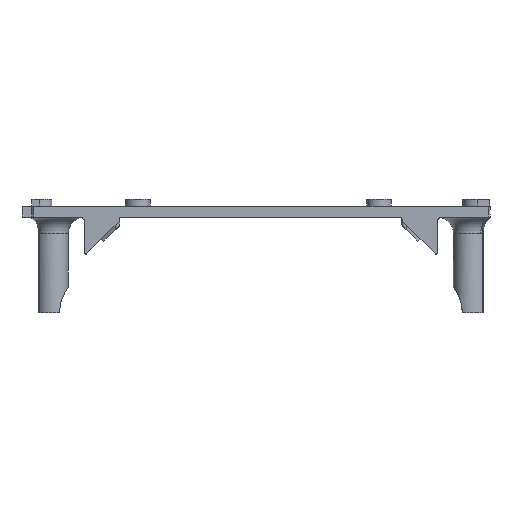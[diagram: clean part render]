
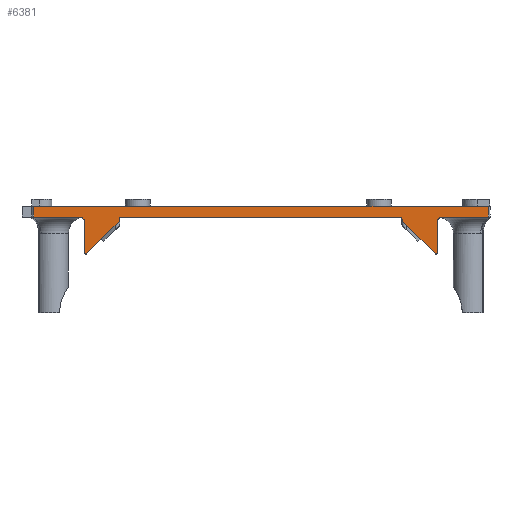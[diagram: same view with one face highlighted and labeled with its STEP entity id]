
A CAD part, front view. The second image highlights one B-rep face of the part: STEP entity #6381.
In plain terms, the highlighted planar face has unit normal (0, -1, 0).
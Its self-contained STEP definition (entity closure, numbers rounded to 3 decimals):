
#37 = VERTEX_POINT ( 'NONE', #10490 ) ;
#57 = VECTOR ( 'NONE', #4676, 1000. ) ;
#60 = LINE ( 'NONE', #3595, #5301 ) ;
#132 = DIRECTION ( 'NONE',  ( -1., 0., 0. ) ) ;
#204 = ORIENTED_EDGE ( 'NONE', *, *, #2485, .T. ) ;
#273 = CARTESIAN_POINT ( 'NONE',  ( -26.33, -27.95, -0.438 ) ) ;
#285 = CARTESIAN_POINT ( 'NONE',  ( 32.05, -27.95, -6.582 ) ) ;
#327 = CARTESIAN_POINT ( 'NONE',  ( -32.05, -27.95, -6.582 ) ) ;
#382 = LINE ( 'NONE', #2994, #57 ) ;
#514 = VERTEX_POINT ( 'NONE', #10146 ) ;
#576 = ORIENTED_EDGE ( 'NONE', *, *, #10180, .T. ) ;
#624 = CIRCLE ( 'NONE', #3587, 1. ) ;
#765 = CARTESIAN_POINT ( 'NONE',  ( 33.25, -27.95, -1. ) ) ;
#775 = CARTESIAN_POINT ( 'NONE',  ( 32.25, -27.95, 0. ) ) ;
#792 = ORIENTED_EDGE ( 'NONE', *, *, #7973, .T. ) ;
#828 = DIRECTION ( 'NONE',  ( 0., 1., 0. ) ) ;
#980 = VECTOR ( 'NONE', #6081, 1000. ) ;
#1133 = ORIENTED_EDGE ( 'NONE', *, *, #5857, .T. ) ;
#1156 = CARTESIAN_POINT ( 'NONE',  ( 25.83, -27.95, -0.438 ) ) ;
#1384 = AXIS2_PLACEMENT_3D ( 'NONE', #3553, #9853, #132 ) ;
#1476 = EDGE_CURVE ( 'NONE', #9629, #11275, #7832, .T. ) ;
#1505 = ORIENTED_EDGE ( 'NONE', *, *, #9951, .F. ) ;
#1523 = ORIENTED_EDGE ( 'NONE', *, *, #4063, .F. ) ;
#1528 = VERTEX_POINT ( 'NONE', #1156 ) ;
#1530 = CARTESIAN_POINT ( 'NONE',  ( 31.909, -27.95, -6.724 ) ) ;
#1554 = VERTEX_POINT ( 'NONE', #8706 ) ;
#1648 = VERTEX_POINT ( 'NONE', #6611 ) ;
#1692 = DIRECTION ( 'NONE',  ( -1., 0., 0. ) ) ;
#1745 = ORIENTED_EDGE ( 'NONE', *, *, #2489, .T. ) ;
#1796 = EDGE_LOOP ( 'NONE', ( #204, #8983, #7175, #10594, #6148, #8203, #3346, #576, #792, #1523, #1745, #1505, #3077, #10936, #1133, #10677, #7795, #9384 ) ) ;
#1800 = LINE ( 'NONE', #2828, #11200 ) ;
#1955 = CARTESIAN_POINT ( 'NONE',  ( 25.83, -27.95, 0. ) ) ;
#2061 = VERTEX_POINT ( 'NONE', #2357 ) ;
#2122 = VECTOR ( 'NONE', #4427, 1000. ) ;
#2357 = CARTESIAN_POINT ( 'NONE',  ( -41.6, -27.95, 0. ) ) ;
#2481 = CARTESIAN_POINT ( 'NONE',  ( -25.83, -27.95, 2. ) ) ;
#2485 = EDGE_CURVE ( 'NONE', #4170, #2061, #9743, .T. ) ;
#2489 = EDGE_CURVE ( 'NONE', #1528, #4652, #3425, .T. ) ;
#2603 = CARTESIAN_POINT ( 'NONE',  ( 33.25, -27.95, 0. ) ) ;
#2625 = LINE ( 'NONE', #775, #11300 ) ;
#2675 = AXIS2_PLACEMENT_3D ( 'NONE', #273, #9946, #8963 ) ;
#2677 = VECTOR ( 'NONE', #9673, 1000. ) ;
#2698 = VERTEX_POINT ( 'NONE', #3087 ) ;
#2700 = DIRECTION ( 'NONE',  ( 0., 0., 1. ) ) ;
#2828 = CARTESIAN_POINT ( 'NONE',  ( -33.468, -27.95, -8.282 ) ) ;
#2925 = DIRECTION ( 'NONE',  ( 0., 1., 0. ) ) ;
#2994 = CARTESIAN_POINT ( 'NONE',  ( 33.25, -27.95, 0. ) ) ;
#3001 = AXIS2_PLACEMENT_3D ( 'NONE', #285, #10866, #3822 ) ;
#3006 = FACE_OUTER_BOUND ( 'NONE', #1796, .T. ) ;
#3077 = ORIENTED_EDGE ( 'NONE', *, *, #1476, .T. ) ;
#3087 = CARTESIAN_POINT ( 'NONE',  ( 32.25, -27.95, -1. ) ) ;
#3266 = CIRCLE ( 'NONE', #4563, 0.2 ) ;
#3270 = CARTESIAN_POINT ( 'NONE',  ( 41.6, -27.95, 0. ) ) ;
#3280 = EDGE_CURVE ( 'NONE', #514, #9376, #10086, .T. ) ;
#3346 = ORIENTED_EDGE ( 'NONE', *, *, #6891, .T. ) ;
#3416 = LINE ( 'NONE', #2481, #980 ) ;
#3425 = CIRCLE ( 'NONE', #1384, 0.5 ) ;
#3553 = CARTESIAN_POINT ( 'NONE',  ( 26.33, -27.95, -0.438 ) ) ;
#3587 = AXIS2_PLACEMENT_3D ( 'NONE', #765, #828, #10485 ) ;
#3595 = CARTESIAN_POINT ( 'NONE',  ( 26.064, -27.95, -0.879 ) ) ;
#3693 = DIRECTION ( 'NONE',  ( 0., -1., 0. ) ) ;
#3822 = DIRECTION ( 'NONE',  ( -1., 0., 0. ) ) ;
#4063 = EDGE_CURVE ( 'NONE', #1528, #9460, #6351, .T. ) ;
#4170 = VERTEX_POINT ( 'NONE', #4985 ) ;
#4237 = CARTESIAN_POINT ( 'NONE',  ( -25.83, -27.95, 0. ) ) ;
#4262 = EDGE_CURVE ( 'NONE', #9376, #9347, #10519, .T. ) ;
#4427 = DIRECTION ( 'NONE',  ( 0., 0., -1. ) ) ;
#4453 = CARTESIAN_POINT ( 'NONE',  ( -32.25, -27.95, -6.582 ) ) ;
#4561 = EDGE_CURVE ( 'NONE', #2698, #11275, #2625, .T. ) ;
#4563 = AXIS2_PLACEMENT_3D ( 'NONE', #327, #3693, #5659 ) ;
#4652 = VERTEX_POINT ( 'NONE', #10835 ) ;
#4676 = DIRECTION ( 'NONE',  ( 1., 0., 0. ) ) ;
#4783 = VERTEX_POINT ( 'NONE', #9449 ) ;
#4786 = CARTESIAN_POINT ( 'NONE',  ( 25.83, -27.95, 0. ) ) ;
#4861 = VERTEX_POINT ( 'NONE', #3270 ) ;
#4954 = CARTESIAN_POINT ( 'NONE',  ( -33.25, -27.95, -1. ) ) ;
#4982 = EDGE_CURVE ( 'NONE', #4861, #1554, #6097, .T. ) ;
#4985 = CARTESIAN_POINT ( 'NONE',  ( -41.6, -27.95, 2. ) ) ;
#5011 = VECTOR ( 'NONE', #10573, 1000. ) ;
#5301 = VECTOR ( 'NONE', #6312, 1000. ) ;
#5333 = DIRECTION ( 'NONE',  ( 0.707, 0., 0.707 ) ) ;
#5341 = DIRECTION ( 'NONE',  ( 0., 0., 1. ) ) ;
#5462 = CARTESIAN_POINT ( 'NONE',  ( -41.6, -27.95, 2. ) ) ;
#5518 = VECTOR ( 'NONE', #2700, 1000. ) ;
#5634 = CIRCLE ( 'NONE', #2675, 0.5 ) ;
#5659 = DIRECTION ( 'NONE',  ( -1., 0., 0. ) ) ;
#5857 = EDGE_CURVE ( 'NONE', #2698, #1648, #624, .T. ) ;
#6007 = AXIS2_PLACEMENT_3D ( 'NONE', #9838, #8299, #10917 ) ;
#6042 = AXIS2_PLACEMENT_3D ( 'NONE', #4954, #2925, #1692 ) ;
#6081 = DIRECTION ( 'NONE',  ( 0., 0., 1. ) ) ;
#6097 = LINE ( 'NONE', #9617, #7089 ) ;
#6136 = DIRECTION ( 'NONE',  ( 1., 0., 0. ) ) ;
#6148 = ORIENTED_EDGE ( 'NONE', *, *, #9504, .T. ) ;
#6165 = DIRECTION ( 'NONE',  ( 0., 0., -1. ) ) ;
#6267 = CARTESIAN_POINT ( 'NONE',  ( -43.75, -27.95, 2. ) ) ;
#6312 = DIRECTION ( 'NONE',  ( -0.707, 0., 0.707 ) ) ;
#6351 = LINE ( 'NONE', #1955, #5518 ) ;
#6381 = ADVANCED_FACE ( 'NONE', ( #3006 ), #8238, .F. ) ;
#6567 = VERTEX_POINT ( 'NONE', #6612 ) ;
#6611 = CARTESIAN_POINT ( 'NONE',  ( 33.25, -27.95, 0. ) ) ;
#6612 = CARTESIAN_POINT ( 'NONE',  ( -25.83, -27.95, -0.438 ) ) ;
#6891 = EDGE_CURVE ( 'NONE', #4783, #6567, #5634, .T. ) ;
#7078 = CARTESIAN_POINT ( 'NONE',  ( -32.25, -27.95, 2. ) ) ;
#7089 = VECTOR ( 'NONE', #5341, 1000. ) ;
#7175 = ORIENTED_EDGE ( 'NONE', *, *, #3280, .T. ) ;
#7346 = VECTOR ( 'NONE', #11260, 1000. ) ;
#7492 = VECTOR ( 'NONE', #6136, 1000. ) ;
#7716 = LINE ( 'NONE', #11153, #7346 ) ;
#7795 = ORIENTED_EDGE ( 'NONE', *, *, #4982, .T. ) ;
#7832 = CIRCLE ( 'NONE', #3001, 0.2 ) ;
#7973 = EDGE_CURVE ( 'NONE', #8820, #9460, #10520, .T. ) ;
#8025 = LINE ( 'NONE', #6267, #2677 ) ;
#8203 = ORIENTED_EDGE ( 'NONE', *, *, #9939, .T. ) ;
#8224 = CARTESIAN_POINT ( 'NONE',  ( -32.25, -27.95, -1. ) ) ;
#8238 = PLANE ( 'NONE',  #6007 ) ;
#8299 = DIRECTION ( 'NONE',  ( 0., 1., 0. ) ) ;
#8573 = EDGE_CURVE ( 'NONE', #4170, #1554, #8025, .T. ) ;
#8706 = CARTESIAN_POINT ( 'NONE',  ( 41.6, -27.95, 2. ) ) ;
#8820 = VERTEX_POINT ( 'NONE', #4237 ) ;
#8963 = DIRECTION ( 'NONE',  ( -1., 0., 0. ) ) ;
#8983 = ORIENTED_EDGE ( 'NONE', *, *, #10402, .T. ) ;
#9112 = EDGE_CURVE ( 'NONE', #1648, #4861, #7716, .T. ) ;
#9347 = VERTEX_POINT ( 'NONE', #4453 ) ;
#9376 = VERTEX_POINT ( 'NONE', #8224 ) ;
#9384 = ORIENTED_EDGE ( 'NONE', *, *, #8573, .F. ) ;
#9449 = CARTESIAN_POINT ( 'NONE',  ( -25.976, -27.95, -0.791 ) ) ;
#9460 = VERTEX_POINT ( 'NONE', #4786 ) ;
#9504 = EDGE_CURVE ( 'NONE', #9347, #37, #3266, .T. ) ;
#9617 = CARTESIAN_POINT ( 'NONE',  ( 41.6, -27.95, 2. ) ) ;
#9629 = VERTEX_POINT ( 'NONE', #1530 ) ;
#9673 = DIRECTION ( 'NONE',  ( 1., 0., 0. ) ) ;
#9743 = LINE ( 'NONE', #5462, #2122 ) ;
#9838 = CARTESIAN_POINT ( 'NONE',  ( -43.75, -27.95, 2. ) ) ;
#9853 = DIRECTION ( 'NONE',  ( 0., -1., 0. ) ) ;
#9939 = EDGE_CURVE ( 'NONE', #37, #4783, #1800, .T. ) ;
#9946 = DIRECTION ( 'NONE',  ( 0., -1., 0. ) ) ;
#9951 = EDGE_CURVE ( 'NONE', #9629, #4652, #60, .T. ) ;
#10086 = CIRCLE ( 'NONE', #6042, 1. ) ;
#10146 = CARTESIAN_POINT ( 'NONE',  ( -33.25, -27.95, 0. ) ) ;
#10180 = EDGE_CURVE ( 'NONE', #6567, #8820, #3416, .T. ) ;
#10402 = EDGE_CURVE ( 'NONE', #2061, #514, #382, .T. ) ;
#10485 = DIRECTION ( 'NONE',  ( -1., 0., 0. ) ) ;
#10490 = CARTESIAN_POINT ( 'NONE',  ( -31.909, -27.95, -6.724 ) ) ;
#10519 = LINE ( 'NONE', #7078, #5011 ) ;
#10520 = LINE ( 'NONE', #2603, #7492 ) ;
#10573 = DIRECTION ( 'NONE',  ( 0., 0., -1. ) ) ;
#10594 = ORIENTED_EDGE ( 'NONE', *, *, #4262, .T. ) ;
#10662 = CARTESIAN_POINT ( 'NONE',  ( 32.25, -27.95, -6.582 ) ) ;
#10677 = ORIENTED_EDGE ( 'NONE', *, *, #9112, .T. ) ;
#10835 = CARTESIAN_POINT ( 'NONE',  ( 25.976, -27.95, -0.791 ) ) ;
#10866 = DIRECTION ( 'NONE',  ( 0., -1., 0. ) ) ;
#10917 = DIRECTION ( 'NONE',  ( -1., 0., 0. ) ) ;
#10936 = ORIENTED_EDGE ( 'NONE', *, *, #4561, .F. ) ;
#11153 = CARTESIAN_POINT ( 'NONE',  ( 33.25, -27.95, 0. ) ) ;
#11200 = VECTOR ( 'NONE', #5333, 1000. ) ;
#11260 = DIRECTION ( 'NONE',  ( 1., 0., 0. ) ) ;
#11275 = VERTEX_POINT ( 'NONE', #10662 ) ;
#11300 = VECTOR ( 'NONE', #6165, 1000. ) ;
